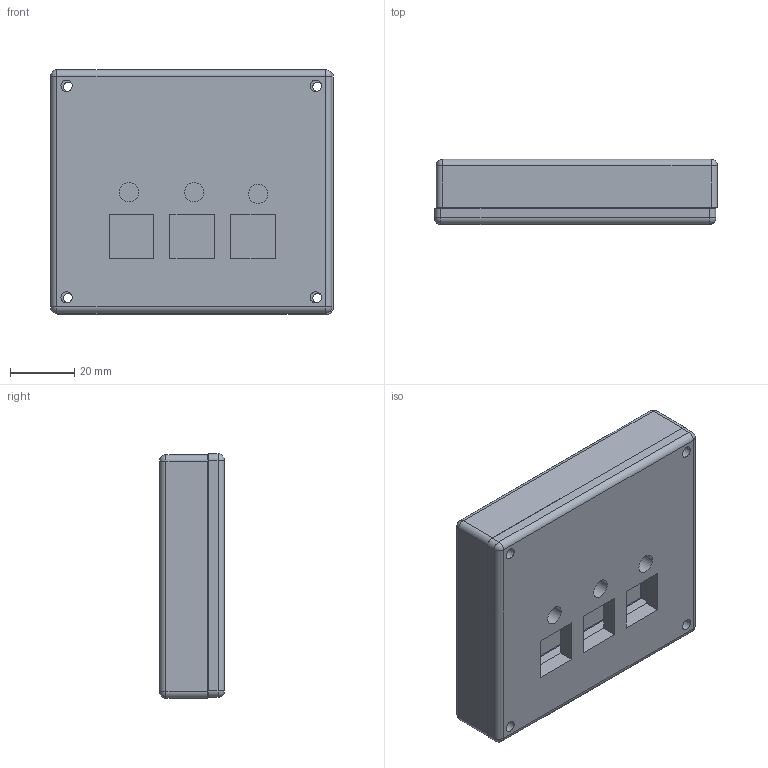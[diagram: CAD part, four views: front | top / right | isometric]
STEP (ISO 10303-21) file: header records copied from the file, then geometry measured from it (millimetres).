
FILE_DESCRIPTION(('STEP AP242 Edition 2','STEP AP242 Edition 2''CAx-IF Rec.Pracs.---Representation and Presentation of Product Manufacturing Information (PMI)---4.0---2014-10-13','STEP AP242 Edition 2''CAx-IF Rec.Pracs.---Representation and Presentation of Product Manufacturing Information (PMI)---4.0---2014-10-13''CAx-IF Rec.Pracs.---3D Tessellated Geometry---0.4---2014-09-14','STEP AP242 Edition 2''CAx-IF Rec.Pracs.---Representation and Presentation of Product Manufacturing Information (PMI)---4.0---2014-10-13''CAx-IF Rec.Pracs.---3D Tessellated Geometry---0.4---2014-09-14''2;1','STEP AP242 Edition 2''CAx-IF Rec.Pracs.---Representation and Presentation of Product Manufacturing Information (PMI)---4.0---2014-10-13''CAx-IF Rec.Pracs.---3D Tessellated Geometry---0.4---2014-09-14''2;1''CAx-IF Rec.Pracs.---User Defined Attributes---1.5---2016-08-15'),'2;1');
FILE_NAME('/vol/tmp/translate-13735995908164470691/69b6eb812100603353c4f776.step','2026-03-15T17:25:21',(''),(''),'ST-DEVELOPER v20','ONSHAPE BY PTC INC, 1.212',' ');
FILE_SCHEMA(('AP242_MANAGED_MODEL_BASED_3D_ENGINEERING_MIM_LF { 1 0 10303 442 3 1 4 }'));
Length unit declared in the file: metre
Products named in the file (4): Assembly 1; Part 1
Assembly tree (3 placements, depth 2):
  Assembly 1
    Part 1
    Part 1
    Part 1
Bounding box: 88.32 x 20.26 x 76.26 mm (x, y, z)
Volume: 96235.5 mm3; surface area: 42499.5 mm2
Topology: 3 solids, 3 shells, 70 faces, 173 edges, 102 vertices
Faces by surface type: plane 35, cylinder 27, sphere 8
Full cylindrical faces by diameter (mm): 2.9 x4, 3.5 x4, 6 x3
Entity records: 2085 total; most frequent: DIRECTION 356, CARTESIAN_POINT 330, ORIENTED_EDGE 308, EDGE_CURVE 154, AXIS2_PLACEMENT_3D 128, EDGE_LOOP 110, FACE_BOUND 110, VERTEX_POINT 102
